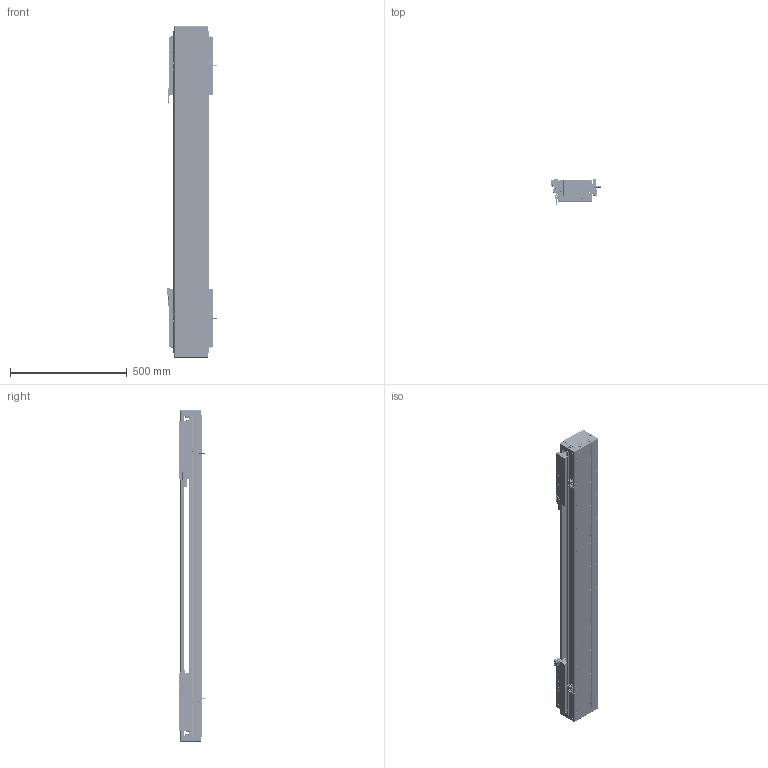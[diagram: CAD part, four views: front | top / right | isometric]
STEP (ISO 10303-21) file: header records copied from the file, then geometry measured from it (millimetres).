
FILE_DESCRIPTION (( 'STEP AP203' ), '1' );
FILE_NAME ('DA-C145-2-C3-T800-C010-0.2 眻盄萇儂.STEP', '2025-08-13T10:17:32', ( '' ), ( '' ), 'SwSTEP 2.0', 'SolidWorks 2019', '' );
FILE_SCHEMA (( 'CONFIG_CONTROL_DESIGN' ));
Length unit declared in the file: millimetre
Products named in the file (35): 葩璃 DA95-HXJ-00 遣喳砎蝶^DA-C145-2-C3-T-C010-0.2; IU-CU145-L-00 菁釱(L1380); CU145-W 幗紩賑怢; 葩璃 XD-U-02L 棠掑喜^DA-C145-2-C3-T-C010-0.2; 葩璃 PM-Y65^DA-C145-2-C3-T-C010-0.2; DKW168-HXJ-ZJ-00 笢潔滅袉砎蝶; 葩璃 鞠褒情蹟譫 M3^DA-C145-2-C3-T-C010-0.2; 葩璃 DA145-DG-H-N-00 傷裔^DA-C145-2-C3-T-C010-0.2; DA-C145-2-C3-T800-C010-0.2 眻盄萇儂; 复件 DA145-C3-YB-A-00 压板A^CU145-W 滚珠滑台; 葩璃 DA145-C3-DP-B-00 菜えB^CU145-W 幗紩賑怢; 葩璃 CKMA01-W060-TRL^DA-C145-2-C3-T-C010-0.2; 葩璃 CKM03-W060-C1C2-TP-0.2^DA-C145-2-C3-T-C010-0.2; 复件 DA95-MFP-01 密封片^CU145-W 滚珠滑台; 葩璃 DMA-010-0.2 黍杅芛^DA-C145-2-C3-T-C010-0.2; TAY01-M8; 复件 半圆头内六角螺钉 M3×6^CU145-W 滚珠滑台; 葩璃 PM-T45^DA-C145-2-C3-T-C010-0.2; 66245-CU145-HT-W-00 賑雄怢啣(3D芞祧)(00); 复件 DA95-DB-00  挡板^CU145-W 滚珠滑台; CU145-W 幗紩賑怢-1; 复件 纯铜油杯 6x6mm^CU145-W 滚珠滑台; CU145-W-00 珨极趙賑雄怢啣; 复件 DA145-C3-YB-B-00 压板B^CU145-W 滚珠滑台; DKW-GYP-ZJ-00 笢潔嫖萇覜茼え; DKW-KGZ-ZJ-00 中间光电开关支架; 葩璃 DA95-GT-T-00^IU-CU145-L 菁釱絳寢; 复件 DA145-GYP-00 光电感应片^DA-C145-2-C3-T-C010-0.2; 复件 DA145-C3-DK-00 挡块^CU145-W 滚珠滑台; 葩璃 DA145-T-003-00 裔啣^DA-C145-2-C3-T-C010-0.2; CU145-W-00 珨极趙賑雄怢啣-1; IU-CU145-L 菁釱絳寢; 复件 DA95-HK-GT-00 滑块钢轨^CU145-W-00 一体化滑动台板; 葩璃 DA145-C3-DP-A-00 菜えA^CU145-W 幗紩賑怢; 复件 内六角平端紧定螺钉 GB.T77-2000 M5×10^CU145-W 滚珠滑台
Assembly tree (175 placements, depth 4):
  DA-C145-2-C3-T800-C010-0.2 眻盄萇儂
    IU-CU145-L 菁釱絳寢
      IU-CU145-L-00 菁釱(L1380)
      葩璃 DA95-GT-T-00^IU-CU145-L 菁釱絳寢  x4
    CU145-W 幗紩賑怢
      CU145-W-00 珨极趙賑雄怢啣
        66245-CU145-HT-W-00 賑雄怢啣(3D芞祧)(00)
        复件 DA95-HK-GT-00 滑块钢轨^CU145-W-00 一体化滑动台板  x8
      复件 DA95-MFP-01 密封片^CU145-W 滚珠滑台  x8
      复件 DA95-DB-00  挡板^CU145-W 滚珠滑台  x8
      复件 内六角平端紧定螺钉 GB.T77-2000 M5×10^CU145-W 滚珠滑台  x4
      复件 纯铜油杯 6x6mm^CU145-W 滚珠滑台  x4
      复件 半圆头内六角螺钉 M3×6^CU145-W 滚珠滑台  x16
      复件 DA145-C3-DK-00 挡块^CU145-W 滚珠滑台  x4
      葩璃 DA145-C3-DP-B-00 菜えB^CU145-W 幗紩賑怢  x2
      复件 DA145-C3-YB-B-00 压板B^CU145-W 滚珠滑台  x2
      葩璃 DA145-C3-DP-A-00 菜えA^CU145-W 幗紩賑怢  x3
      复件 DA145-C3-YB-A-00 压板A^CU145-W 滚珠滑台  x3
      TAY01-M8  x4
    CU145-W 幗紩賑怢-1
      CU145-W-00 珨极趙賑雄怢啣-1
        66245-CU145-HT-W-00 賑雄怢啣(3D芞祧)(00)
        复件 DA95-HK-GT-00 滑块钢轨^CU145-W-00 一体化滑动台板  x8
      复件 DA95-MFP-01 密封片^CU145-W 滚珠滑台  x8
      复件 DA95-DB-00  挡板^CU145-W 滚珠滑台  x8
      复件 内六角平端紧定螺钉 GB.T77-2000 M5×10^CU145-W 滚珠滑台  x4
      复件 纯铜油杯 6x6mm^CU145-W 滚珠滑台  x4
      复件 半圆头内六角螺钉 M3×6^CU145-W 滚珠滑台  x16
      复件 DA145-C3-DK-00 挡块^CU145-W 滚珠滑台  x4
      葩璃 DA145-C3-DP-B-00 菜えB^CU145-W 幗紩賑怢  x2
      复件 DA145-C3-YB-B-00 压板B^CU145-W 滚珠滑台  x2
      葩璃 DA145-C3-DP-A-00 菜えA^CU145-W 幗紩賑怢  x3
      复件 DA145-C3-YB-A-00 压板A^CU145-W 滚珠滑台  x3
      TAY01-M8  x4
    葩璃 CKMA01-W060-TRL^DA-C145-2-C3-T-C010-0.2
    葩璃 PM-T45^DA-C145-2-C3-T-C010-0.2  x4
    葩璃 XD-U-02L 棠掑喜^DA-C145-2-C3-T-C010-0.2
    葩璃 DA145-DG-H-N-00 傷裔^DA-C145-2-C3-T-C010-0.2  x2
    葩璃 DA145-T-003-00 裔啣^DA-C145-2-C3-T-C010-0.2
    葩璃 DA95-HXJ-00 遣喳砎蝶^DA-C145-2-C3-T-C010-0.2  x4
    葩璃 CKM03-W060-C1C2-TP-0.2^DA-C145-2-C3-T-C010-0.2  x2
    葩璃 DMA-010-0.2 黍杅芛^DA-C145-2-C3-T-C010-0.2  x2
    复件 DA145-GYP-00 光电感应片^DA-C145-2-C3-T-C010-0.2  x2
    DKW-GYP-ZJ-00 笢潔嫖萇覜茼え
    DKW-KGZ-ZJ-00 中间光电开关支架
    葩璃 PM-Y65^DA-C145-2-C3-T-C010-0.2
    葩璃 鞠褒情蹟譫 M3^DA-C145-2-C3-T-C010-0.2  x8
    DKW168-HXJ-ZJ-00 笢潔滅袉砎蝶
Bounding box: 213.7 x 108.45 x 1420 mm (x, y, z)
Volume: 10517515 mm3; surface area: 2982141.3 mm2
Topology: 171 solids, 235 shells, 7018 faces, 18358 edges, 11271 vertices
Faces by surface type: plane 2936, cylinder 2794, cone 1120, torus 152, sphere 8, bspline 8
Entity records: 112565 total; most frequent: CARTESIAN_POINT 28940, ORIENTED_EDGE 15880, DIRECTION 15821, EDGE_CURVE 7940, AXIS2_PLACEMENT_3D 5753, VERTEX_POINT 5120, LINE 4315, VECTOR 4315
